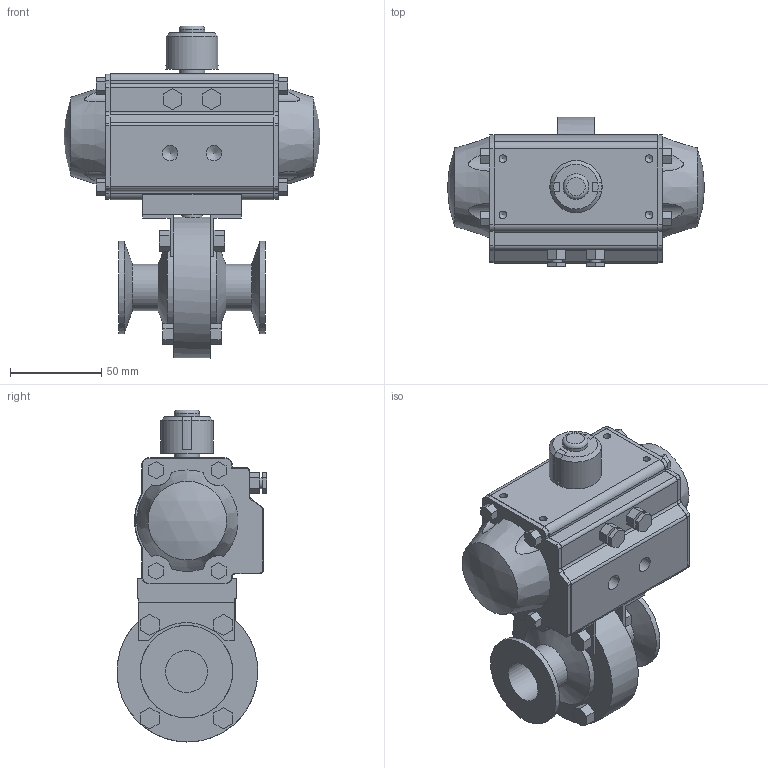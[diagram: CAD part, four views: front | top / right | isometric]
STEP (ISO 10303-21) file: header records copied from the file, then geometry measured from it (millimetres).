
FILE_DESCRIPTION(/* description */ ('ＯＳＵ'),/* implementation_level */ '2;1');
FILE_NAME(/* name */ 'C:\Users\Fujimoto-s\OneDrive\Inventor\WorkSpace\\X2\305D306E4ED6\X0\\ホームページ用\\X2\30C030A630F330ED30FC30C97D206750\X0\\サニタリー継手\RB-PW-1.0S-316L-C-EPDM\RB-PW-1.0S-316L-C-EPDM.stp',/* time_stamp */ '2024-08-09T11:05:51+09:00',/* author */ ('Fujimoto-s'),/* organization */ (''),/* preprocessor_version */ 'ST-DEVELOPER v15.2',/* originating_system */ 'Autodesk Inventor 2014',/* authorisation */ '');
FILE_SCHEMA (('AUTOMOTIVE_DESIGN { 1 0 10303 214 3 1 1 }'));
Length unit declared in the file: millimetre
Products named in the file (1): RB-PW-1.0S-316L-C-EPDM
Bounding box: 140.5 x 81.98 x 181.5 mm (x, y, z)
Volume: 666852.3 mm3; surface area: 79590.2 mm2
Topology: 1 solids, 1 shells, 309 faces, 799 edges, 525 vertices
Faces by surface type: plane 227, cylinder 63, cone 16, sphere 2, torus 1
Full cylindrical faces by diameter (mm): 4.134 x4, 6 x2, 8.566 x2, 11 x1, 14 x2, 23 x2, 25.4 x2, 28.5 x1, 50.5 x2, 50.6 x2, 77 x1
Entity records: 9561 total; most frequent: CARTESIAN_POINT 1795, ORIENTED_EDGE 1508, DIRECTION 1498, EDGE_CURVE 754, LINE 596, VECTOR 596, VERTEX_POINT 514, AXIS2_PLACEMENT_3D 451
